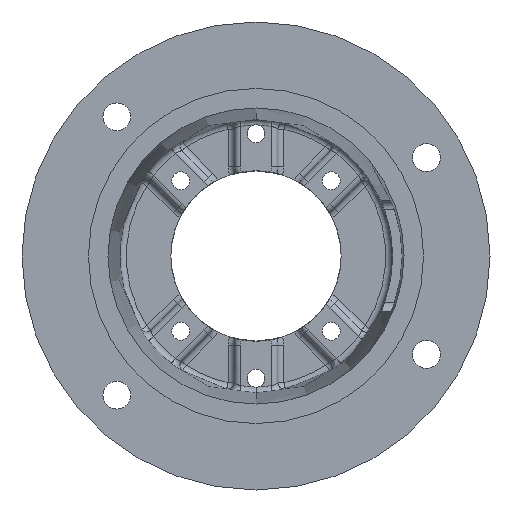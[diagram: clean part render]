
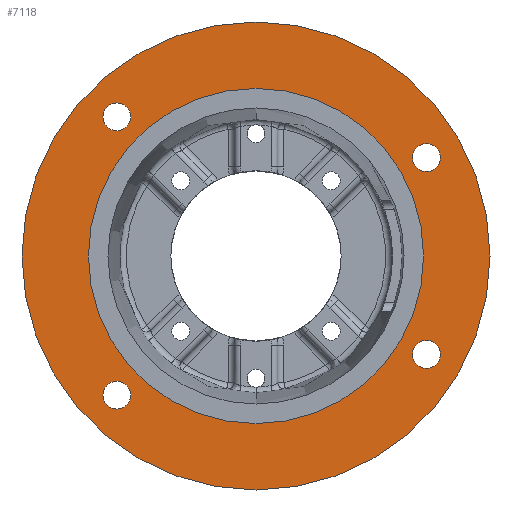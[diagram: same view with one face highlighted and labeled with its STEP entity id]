
A CAD part, front view. The second image highlights one B-rep face of the part: STEP entity #7118.
In plain terms, the highlighted planar face has unit normal (0, -1, 0).
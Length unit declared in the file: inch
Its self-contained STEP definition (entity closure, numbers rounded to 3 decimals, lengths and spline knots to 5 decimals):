
#33 = VERTEX_POINT ( 'NONE', #10113 ) ;
#238 = EDGE_CURVE ( 'NONE', #11253, #1621, #10453, .T. ) ;
#305 = FACE_BOUND ( 'NONE', #7798, .T. ) ;
#337 = VERTEX_POINT ( 'NONE', #11425 ) ;
#414 = ORIENTED_EDGE ( 'NONE', *, *, #937, .F. ) ;
#495 = AXIS2_PLACEMENT_3D ( 'NONE', #6919, #12383, #12421 ) ;
#498 = AXIS2_PLACEMENT_3D ( 'NONE', #11693, #11588, #10765 ) ;
#591 = AXIS2_PLACEMENT_3D ( 'NONE', #6019, #13805, #7136 ) ;
#937 = EDGE_CURVE ( 'NONE', #1522, #11963, #11471, .T. ) ;
#1067 = EDGE_CURVE ( 'NONE', #337, #10307, #13392, .T. ) ;
#1283 = EDGE_LOOP ( 'NONE', ( #4517, #4860 ) ) ;
#1323 = ORIENTED_EDGE ( 'NONE', *, *, #4429, .F. ) ;
#1482 = ORIENTED_EDGE ( 'NONE', *, *, #8386, .F. ) ;
#1522 = VERTEX_POINT ( 'NONE', #6728 ) ;
#1621 = VERTEX_POINT ( 'NONE', #4876 ) ;
#1645 = CIRCLE ( 'NONE', #9514, 5.5 ) ;
#1657 = AXIS2_PLACEMENT_3D ( 'NONE', #2601, #10297, #3683 ) ;
#1946 = CIRCLE ( 'NONE', #7489, 0.32812 ) ;
#2288 = AXIS2_PLACEMENT_3D ( 'NONE', #11295, #4697, #12439 ) ;
#2378 = EDGE_CURVE ( 'NONE', #12590, #33, #6788, .T. ) ;
#2389 = DIRECTION ( 'NONE',  ( 0., 0., -1. ) ) ;
#2407 = DIRECTION ( 'NONE',  ( 0., -1., 0. ) ) ;
#2425 = CARTESIAN_POINT ( 'NONE',  ( 4.00537, 0., 2.3125 ) ) ;
#2544 = ORIENTED_EDGE ( 'NONE', *, *, #1067, .F. ) ;
#2601 = CARTESIAN_POINT ( 'NONE',  ( -3.27037, 0., 3.27037 ) ) ;
#2827 = VERTEX_POINT ( 'NONE', #10805 ) ;
#3429 = EDGE_CURVE ( 'NONE', #9135, #12555, #11435, .T. ) ;
#3432 = EDGE_CURVE ( 'NONE', #12869, #2827, #8797, .T. ) ;
#3498 = EDGE_LOOP ( 'NONE', ( #1323, #414 ) ) ;
#3683 = DIRECTION ( 'NONE',  ( 0., 0., -1. ) ) ;
#3856 = DIRECTION ( 'NONE',  ( 0., -1., 0. ) ) ;
#4112 = CARTESIAN_POINT ( 'NONE',  ( -3.27037, 0., 3.59849 ) ) ;
#4162 = CARTESIAN_POINT ( 'NONE',  ( 0., 0., 0. ) ) ;
#4187 = AXIS2_PLACEMENT_3D ( 'NONE', #7184, #7016, #7106 ) ;
#4241 = ORIENTED_EDGE ( 'NONE', *, *, #238, .T. ) ;
#4429 = EDGE_CURVE ( 'NONE', #11963, #1522, #1946, .T. ) ;
#4517 = ORIENTED_EDGE ( 'NONE', *, *, #6381, .F. ) ;
#4633 = CARTESIAN_POINT ( 'NONE',  ( 0., 0., 3.9385 ) ) ;
#4638 = CIRCLE ( 'NONE', #6544, 0.32812 ) ;
#4697 = DIRECTION ( 'NONE',  ( 0., 1., 0. ) ) ;
#4860 = ORIENTED_EDGE ( 'NONE', *, *, #3432, .F. ) ;
#4876 = CARTESIAN_POINT ( 'NONE',  ( 0., 0., 5.5 ) ) ;
#5268 = DIRECTION ( 'NONE',  ( 0., 0., -1. ) ) ;
#5363 = DIRECTION ( 'NONE',  ( 0., 0., -1. ) ) ;
#5408 = DIRECTION ( 'NONE',  ( 0., -1., 0. ) ) ;
#5432 = FACE_OUTER_BOUND ( 'NONE', #12527, .T. ) ;
#5459 = CARTESIAN_POINT ( 'NONE',  ( 4.00537, 0., 2.3125 ) ) ;
#5461 = CARTESIAN_POINT ( 'NONE',  ( 4.00537, 0., -1.98438 ) ) ;
#6019 = CARTESIAN_POINT ( 'NONE',  ( -3.27037, 0., -3.27037 ) ) ;
#6129 = CIRCLE ( 'NONE', #1657, 0.32812 ) ;
#6376 = AXIS2_PLACEMENT_3D ( 'NONE', #6545, #6710, #7056 ) ;
#6381 = EDGE_CURVE ( 'NONE', #2827, #12869, #6129, .T. ) ;
#6511 = DIRECTION ( 'NONE',  ( 0., -1., 0. ) ) ;
#6544 = AXIS2_PLACEMENT_3D ( 'NONE', #10476, #3856, #11577 ) ;
#6545 = CARTESIAN_POINT ( 'NONE',  ( -3.27037, 0., 3.27037 ) ) ;
#6710 = DIRECTION ( 'NONE',  ( 0., -1., 0. ) ) ;
#6728 = CARTESIAN_POINT ( 'NONE',  ( 4.00537, 0., 2.64062 ) ) ;
#6788 = CIRCLE ( 'NONE', #13443, 0.32812 ) ;
#6919 = CARTESIAN_POINT ( 'NONE',  ( 0., 0., 0. ) ) ;
#6949 = AXIS2_PLACEMENT_3D ( 'NONE', #13167, #6511, #14279 ) ;
#7016 = DIRECTION ( 'NONE',  ( 0., -1., 0. ) ) ;
#7056 = DIRECTION ( 'NONE',  ( 0., 0., -1. ) ) ;
#7106 = DIRECTION ( 'NONE',  ( 0., 0., -1. ) ) ;
#7118 = ADVANCED_FACE ( 'NONE', ( #11315, #8693, #305, #14273, #8350, #5432 ), #9046, .F. ) ;
#7136 = DIRECTION ( 'NONE',  ( 0., 0., -1. ) ) ;
#7184 = CARTESIAN_POINT ( 'NONE',  ( 0., 0., 0. ) ) ;
#7269 = CIRCLE ( 'NONE', #6949, 3.9385 ) ;
#7424 = EDGE_LOOP ( 'NONE', ( #10380, #13282 ) ) ;
#7489 = AXIS2_PLACEMENT_3D ( 'NONE', #2425, #2407, #2389 ) ;
#7798 = EDGE_LOOP ( 'NONE', ( #2544, #1482 ) ) ;
#8022 = AXIS2_PLACEMENT_3D ( 'NONE', #5459, #5408, #5363 ) ;
#8350 = FACE_BOUND ( 'NONE', #7424, .T. ) ;
#8386 = EDGE_CURVE ( 'NONE', #10307, #337, #10165, .T. ) ;
#8617 = EDGE_LOOP ( 'NONE', ( #10982, #9415 ) ) ;
#8693 = FACE_BOUND ( 'NONE', #8617, .T. ) ;
#8797 = CIRCLE ( 'NONE', #6376, 0.32812 ) ;
#9046 = PLANE ( 'NONE',  #2288 ) ;
#9135 = VERTEX_POINT ( 'NONE', #4633 ) ;
#9415 = ORIENTED_EDGE ( 'NONE', *, *, #2378, .F. ) ;
#9514 = AXIS2_PLACEMENT_3D ( 'NONE', #4162, #11893, #5268 ) ;
#9961 = EDGE_CURVE ( 'NONE', #33, #12590, #4638, .T. ) ;
#10113 = CARTESIAN_POINT ( 'NONE',  ( 4.00537, 0., -2.64063 ) ) ;
#10165 = CIRCLE ( 'NONE', #591, 0.32812 ) ;
#10297 = DIRECTION ( 'NONE',  ( 0., -1., 0. ) ) ;
#10307 = VERTEX_POINT ( 'NONE', #12265 ) ;
#10380 = ORIENTED_EDGE ( 'NONE', *, *, #12546, .F. ) ;
#10453 = CIRCLE ( 'NONE', #495, 5.5 ) ;
#10476 = CARTESIAN_POINT ( 'NONE',  ( 4.00537, 0., -2.3125 ) ) ;
#10699 = CARTESIAN_POINT ( 'NONE',  ( 4.00537, 0., 1.98437 ) ) ;
#10765 = DIRECTION ( 'NONE',  ( 0., 0., -1. ) ) ;
#10786 = ORIENTED_EDGE ( 'NONE', *, *, #11378, .T. ) ;
#10805 = CARTESIAN_POINT ( 'NONE',  ( -3.27037, 0., 2.94224 ) ) ;
#10982 = ORIENTED_EDGE ( 'NONE', *, *, #9961, .F. ) ;
#11016 = DIRECTION ( 'NONE',  ( 0., 0., -1. ) ) ;
#11057 = DIRECTION ( 'NONE',  ( 0., -1., 0. ) ) ;
#11253 = VERTEX_POINT ( 'NONE', #13762 ) ;
#11295 = CARTESIAN_POINT ( 'NONE',  ( -5.5, 0., 0. ) ) ;
#11315 = FACE_BOUND ( 'NONE', #3498, .T. ) ;
#11378 = EDGE_CURVE ( 'NONE', #1621, #11253, #1645, .T. ) ;
#11425 = CARTESIAN_POINT ( 'NONE',  ( -3.27037, 0., -3.59849 ) ) ;
#11435 = CIRCLE ( 'NONE', #4187, 3.9385 ) ;
#11471 = CIRCLE ( 'NONE', #8022, 0.32812 ) ;
#11577 = DIRECTION ( 'NONE',  ( 0., 0., -1. ) ) ;
#11588 = DIRECTION ( 'NONE',  ( 0., -1., 0. ) ) ;
#11693 = CARTESIAN_POINT ( 'NONE',  ( -3.27037, 0., -3.27037 ) ) ;
#11893 = DIRECTION ( 'NONE',  ( 0., -1., 0. ) ) ;
#11963 = VERTEX_POINT ( 'NONE', #10699 ) ;
#12052 = CARTESIAN_POINT ( 'NONE',  ( 0., 0., -3.9385 ) ) ;
#12147 = CARTESIAN_POINT ( 'NONE',  ( 4.00537, 0., -2.3125 ) ) ;
#12265 = CARTESIAN_POINT ( 'NONE',  ( -3.27037, 0., -2.94224 ) ) ;
#12383 = DIRECTION ( 'NONE',  ( 0., -1., 0. ) ) ;
#12421 = DIRECTION ( 'NONE',  ( 0., 0., -1. ) ) ;
#12439 = DIRECTION ( 'NONE',  ( 0., 0., 1. ) ) ;
#12527 = EDGE_LOOP ( 'NONE', ( #4241, #10786 ) ) ;
#12546 = EDGE_CURVE ( 'NONE', #12555, #9135, #7269, .T. ) ;
#12555 = VERTEX_POINT ( 'NONE', #12052 ) ;
#12590 = VERTEX_POINT ( 'NONE', #5461 ) ;
#12869 = VERTEX_POINT ( 'NONE', #4112 ) ;
#13167 = CARTESIAN_POINT ( 'NONE',  ( 0., 0., 0. ) ) ;
#13282 = ORIENTED_EDGE ( 'NONE', *, *, #3429, .F. ) ;
#13392 = CIRCLE ( 'NONE', #498, 0.32812 ) ;
#13443 = AXIS2_PLACEMENT_3D ( 'NONE', #12147, #11057, #11016 ) ;
#13762 = CARTESIAN_POINT ( 'NONE',  ( 0., 0., -5.5 ) ) ;
#13805 = DIRECTION ( 'NONE',  ( 0., -1., 0. ) ) ;
#14273 = FACE_BOUND ( 'NONE', #1283, .T. ) ;
#14279 = DIRECTION ( 'NONE',  ( 0., 0., -1. ) ) ;
